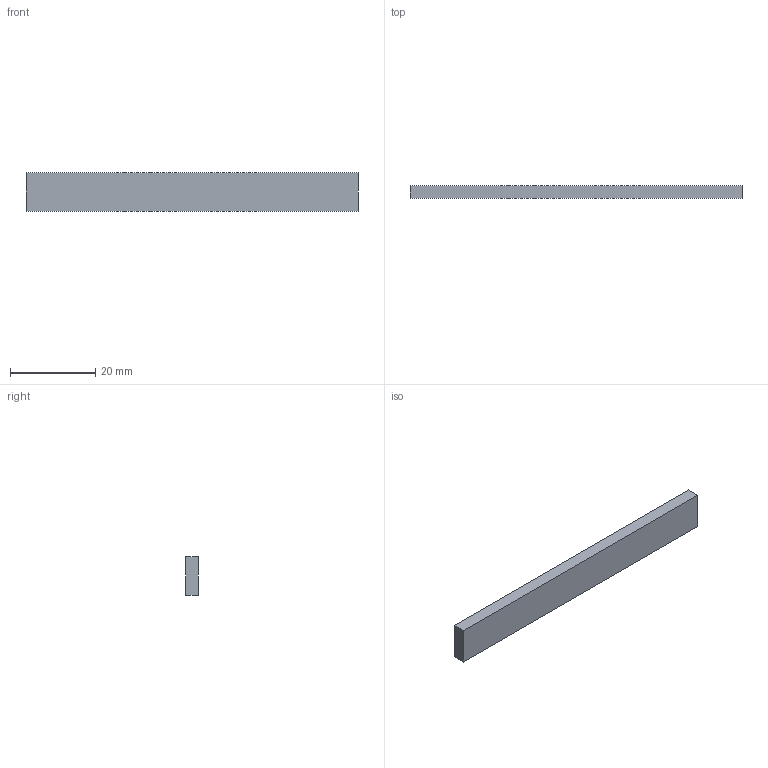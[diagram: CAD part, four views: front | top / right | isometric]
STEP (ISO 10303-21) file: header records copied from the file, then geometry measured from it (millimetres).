
FILE_DESCRIPTION(('Open CASCADE Model'),'2;1');
FILE_NAME('Open CASCADE Shape Model','2026-10-04T02:31:39',('Author'),( 'Open CASCADE'),'Open CASCADE STEP processor 8.0','Open CASCADE 8.0' ,'Unknown');
FILE_SCHEMA(('AUTOMOTIVE_DESIGN { 1 0 10303 214 1 1 1 1 }'));
Length unit declared in the file: millimetre
Products named in the file (1): Open CASCADE STEP translator 8.0 179
Bounding box: 78 x 3 x 9 mm (x, y, z)
Volume: 2106 mm3; surface area: 1926 mm2
Topology: 1 solids, 1 shells, 6 faces, 12 edges, 8 vertices
Faces by surface type: plane 6
Entity records: 322 total; most frequent: CARTESIAN_POINT 51, DIRECTION 50, LINE 36, VECTOR 36, ORIENTED_EDGE 24, PCURVE 24, DEFINITIONAL_REPRESENTATION 24, EDGE_CURVE 12
